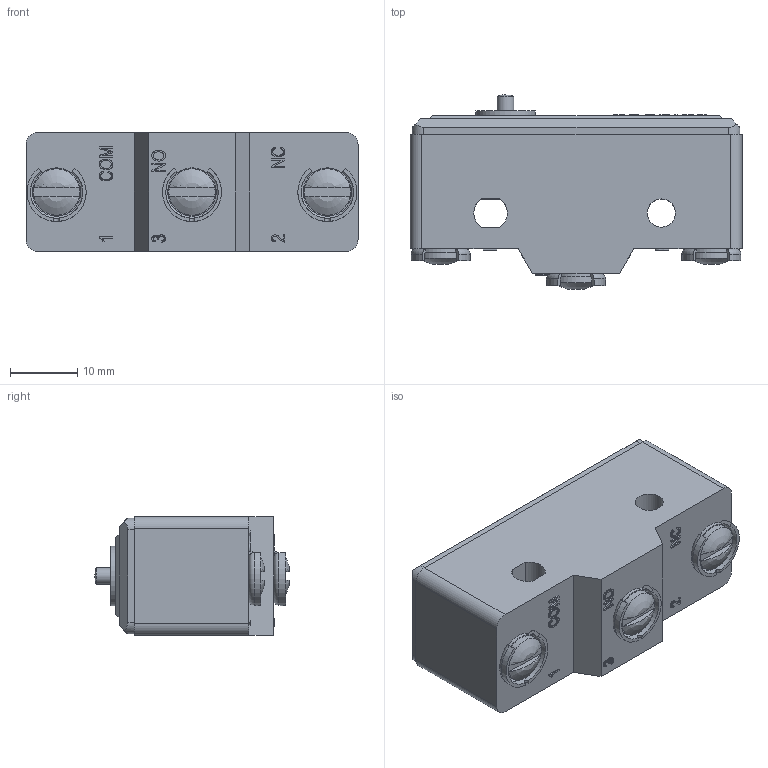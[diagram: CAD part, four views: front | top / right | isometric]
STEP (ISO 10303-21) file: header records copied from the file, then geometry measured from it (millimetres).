
FILE_DESCRIPTION((''),'2; 1');
FILE_NAME('','2026-03-27T16:25:55',(''),(''),'CST STEP Exporter V1.0','Unknown','');
FILE_SCHEMA(('CONFIG_CONTROL_DESIGN'));
Length unit declared in the file: metre
Assembly tree (9 placements, depth 2):
  (unnamed)
    (unnamed)
    (unnamed)
    (unnamed)
    (unnamed)
    (unnamed)
    (unnamed)
    (unnamed)
    (unnamed)
    (unnamed)
Bounding box: 49.4 x 28.91 x 17.7 mm (x, y, z)
Surface area: 11251.1 mm2 (no closed solid volume)
Topology: 0 solids, 9 shells, 377 faces, 1001 edges, 664 vertices
Faces by surface type: plane 269, extrusion 62, cylinder 33, torus 6, revolution 6, sphere 1
Full cylindrical faces by diameter (mm): 2.5 x1, 2.7 x1, 4.2 x1, 6.9 x3, 8.9 x1
Entity records: 16234 total; most frequent: CARTESIAN_POINT 4057, ORIENTED_EDGE 1927, DIRECTION 1624, EDGE_CURVE 988, VECTOR 811, LINE 749, VERTEX_POINT 659, EDGE_LOOP 431
